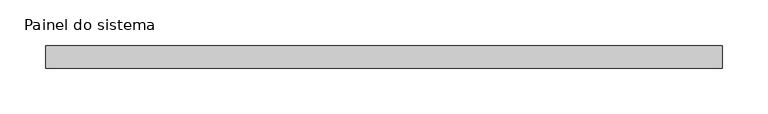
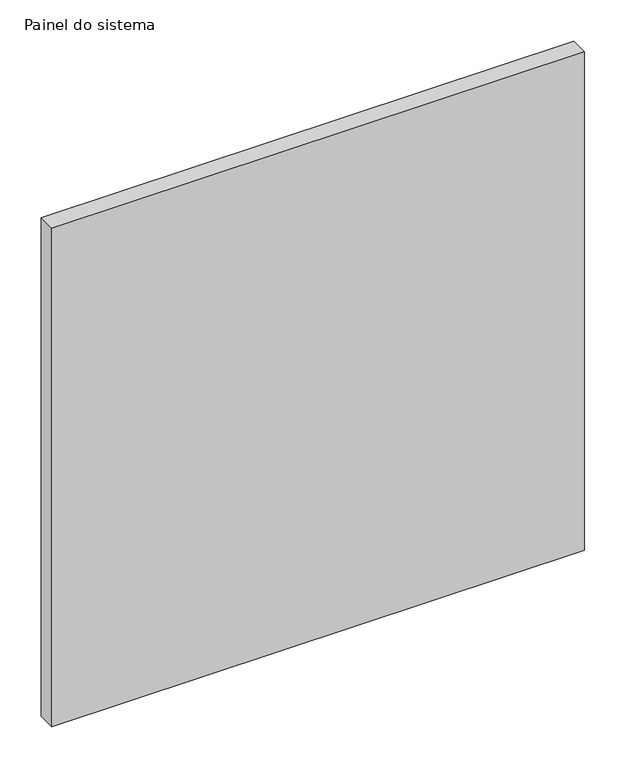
"""IFC4 building model written with IfcOpenShell, lengths in millimetres: plate geometry, Painel do sistema : Envidraçado."""

from ifc_helpers import new_model, si_unit, origin, origin_with_axes, place, context, project, spatial, polyline, outline, extrude, source, transform, mapped, element, save


def painel_do_sistema_171943e0(model_context):
    return source(origin(), model_context, "Body", "SweptSolid", [
        extrude(outline(polyline([(371.6666667, 24.5), (-371.6666667, 24.5), (-371.6666667, 49.5), (371.6666667, 49.5), (371.6666667, 24.5)])), origin_with_axes(), (0.0, 0.0, 1.0), 735.0),
    ])


if __name__ == "__main__":
    model = new_model("IFC4")
    model_context = context("Model", 3, world=origin())
    ifc_project = project(units=[si_unit("LENGTHUNIT", "METRE", prefix="MILLI")], contexts=[model_context])
    site = spatial("IfcSite", under=ifc_project)
    building = spatial("IfcBuilding", under=site)
    placement = place(None, origin())
    painel_do_sistema_shape = painel_do_sistema_171943e0(model_context)
    element("IfcPlate", 1, ObjectType="Painel do sistema : Envidraçado", at=placement, inside=building, context=model_context, shape_type="MappedRepresentation", body=[
        mapped(painel_do_sistema_shape, transform((0.0, 0.0, 0.0), x_axis=(1.0, 0.0, 0.0), y_axis=(0.0, 1.0, 0.0), z_axis=(0.0, 0.0, 1.0))),
    ])
    save(model, "model.ifc")
